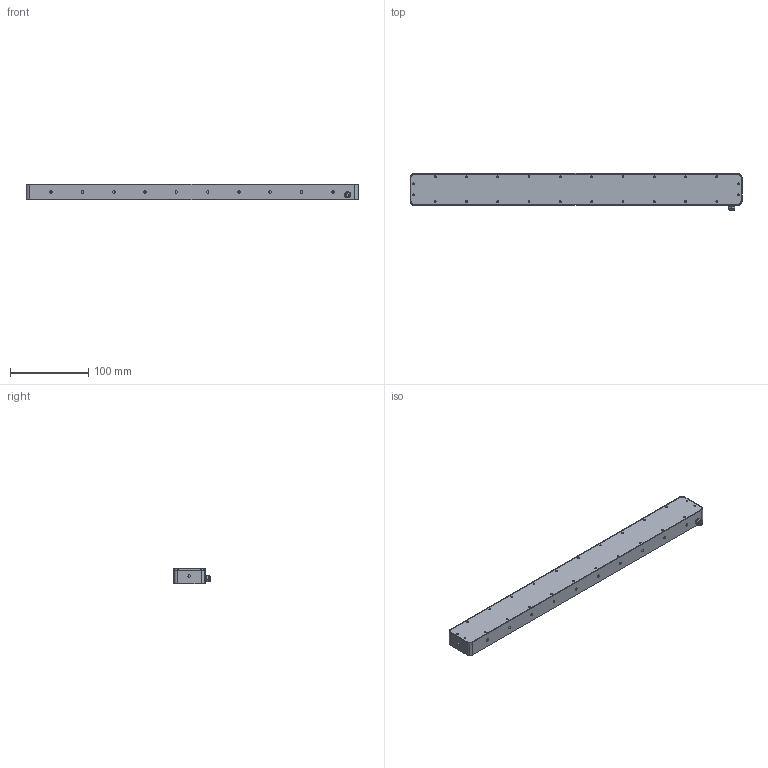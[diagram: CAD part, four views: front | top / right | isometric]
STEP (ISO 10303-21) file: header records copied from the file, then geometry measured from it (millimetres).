
FILE_DESCRIPTION(('STEP AP214'),'1');
FILE_NAME('Power-Line-400 Step.stp','2018-04-13T07:36:13',(' '),(' '),'Spatial InterOp 3D',' ',' ');
FILE_SCHEMA(('AUTOMOTIVE_DESIGN { 1 0 10303 214 1 1 1 1 }'));
Length unit declared in the file: metre
Products named in the file (2): Power-Line-400 Step
Assembly tree (1 placements, depth 2):
  Power-Line-400 Step
    Power-Line-400 Step
Bounding box: 424.2 x 47.53 x 19.8 mm (x, y, z)
Volume: 258915 mm3; surface area: 93908.5 mm2
Topology: 1 solids, 3 shells, 451 faces, 1051 edges, 689 vertices
Faces by surface type: cylinder 281, plane 146, cone 8, bspline 8, sphere 4, torus 4
Entity records: 17398 total; most frequent: CARTESIAN_POINT 3029, DIRECTION 2447, ORIENTED_EDGE 2086, EDGE_CURVE 1043, AXIS2_PLACEMENT_3D 1032, VERTEX_POINT 689, CIRCLE 584, EDGE_LOOP 544
